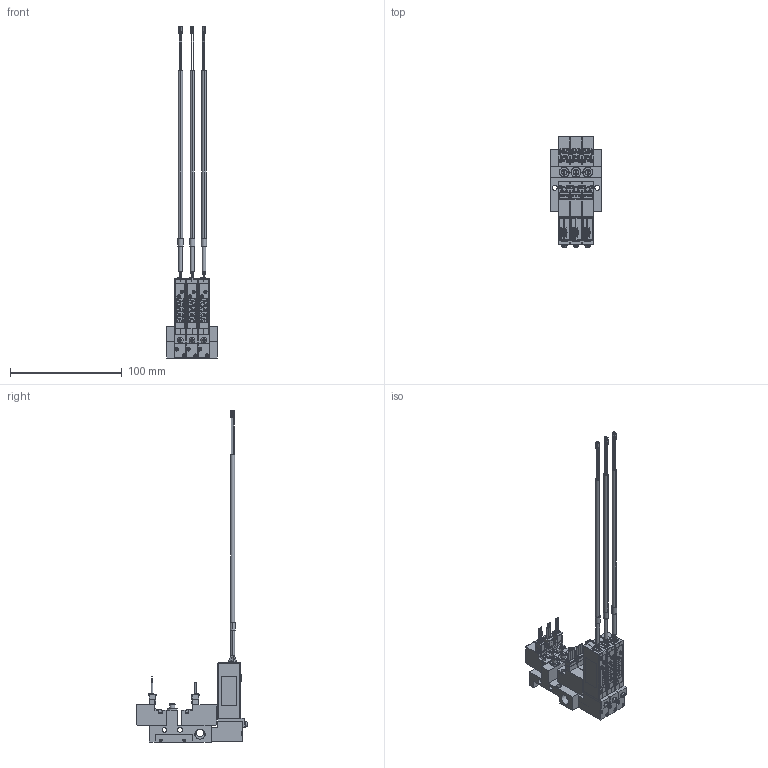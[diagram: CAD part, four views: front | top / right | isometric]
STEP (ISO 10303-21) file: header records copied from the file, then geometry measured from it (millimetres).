
FILE_DESCRIPTION(('STEP AP203'),'1');
FILE_NAME('1-L-4EZ-M03-V9.stp','2025-05-09T01:22:54',(' '),(' '),'Spatial InterOp 3D',' ',' ');
FILE_SCHEMA(('CONFIG_CONTROL_DESIGN'));
Length unit declared in the file: millimetre
Products named in the file (89): PV1※1-L-4EZ-M03-V9; BODY; PLATE; NEEDLE; BOLT; SOLENOID VALVE VOLTAGE PV; 42; 45; 48; 51; SOLENOID VALVE PV101-W; BRAKET(MPS-V9  PV-L용)NEW; BRAKET; MPS-V9AC.ics; __1; MPS-V9AC; MSBR-1_1; MSBR-4_1; MSBR-7_1; MSBR-21_1; MSBR-24_1; MSBR-25_1; MSBR-26_1; MSBR-27_1; MSBR-28_1; MSBR-29_1
Assembly tree (88 placements, depth 5):
  PV1※1-L-4EZ-M03-V9
    BODY
    PLATE
    PLATE
    NEEDLE
    BOLT
    BOLT
    BOLT
    BOLT
    BOLT
    BOLT
    SOLENOID VALVE VOLTAGE PV
      42
      45
      48
      51
    NEEDLE
    SOLENOID VALVE VOLTAGE PV
      42
      45
      48
      51
    NEEDLE
    SOLENOID VALVE VOLTAGE PV
      42
      45
      48
      51
    PLATE
    BOLT
    BOLT
    BOLT
    SOLENOID VALVE PV101-W
    SOLENOID VALVE PV101-W
    SOLENOID VALVE PV101-W
    BRAKET(MPS-V9  PV-L용)NEW
      BOLT
      BOLT
      BRAKET
      MPS-V9AC.ics
        __1
        MPS-V9AC
          MSBR-1_1
          MSBR-4_1
          MSBR-4_1
          MSBR-7_1
          MSBR-21_1
          MSBR-24_1
          MSBR-25_1
          MSBR-26_1
          MSBR-27_1
          MSBR-28_1
          MSBR-29_1
    BRAKET(MPS-V9  PV-L용)NEW
      BOLT
      BOLT
      BRAKET
      MPS-V9AC.ics
        __1
        MPS-V9AC
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Bounding box: 45 x 99.29 x 297.25 mm (x, y, z)
Volume: 90421.2 mm3; surface area: 76064.9 mm2
Topology: 73 solids, 100 shells, 3649 faces, 9917 edges, 6683 vertices
Faces by surface type: plane 2845, cylinder 613, torus 69, bspline 45, cone 35, extrusion 30, sphere 12
Full cylindrical faces by diameter (mm): 1.4 x9, 2 x9, 2.3 x6, 2.5 x3, 3 x21, 3.5 x3, 4.2 x8, 4.5 x2, 5 x6, 6.5 x1, 8.797 x2, 9 x3
Entity records: 119811 total; most frequent: CARTESIAN_POINT 23039, ORIENTED_EDGE 19142, DIRECTION 18560, EDGE_CURVE 9685, VECTOR 7530, LINE 7500, VERTEX_POINT 6604, AXIS2_PLACEMENT_3D 5515
